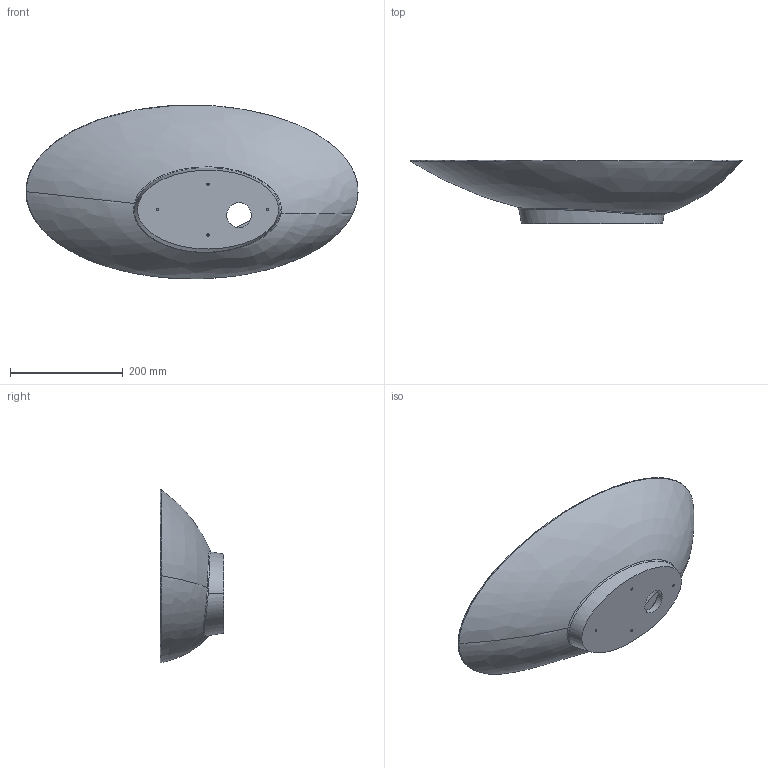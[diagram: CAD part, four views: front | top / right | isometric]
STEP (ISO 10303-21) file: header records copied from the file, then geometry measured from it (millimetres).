
FILE_DESCRIPTION(/* description */ (''),/* implementation_level */ '2;1');
FILE_NAME(/* name */ 'c:\worker\convert-fusion-r09\tmp\job-1\29\output\files\58e395e7-f1ab-4122-9e88-ba5ade78151b\203f0e8e-6407-48ec-9d8e-62d3ba9a784e.stp',/* time_stamp */ '2020-01-07T08:51:59+00:00',/* author */ (''),/* organization */ (''),/* preprocessor_version */ 'ST-DEVELOPER v18',/* originating_system */ 'Autodesk Translation Framework v8.12.0.6',/* authorisation */ '');
FILE_SCHEMA (('AUTOMOTIVE_DESIGN { 1 0 10303 214 3 1 1 }'));
Length unit declared in the file: millimetre
Products named in the file (1): Malta
Bounding box: 588.84 x 113 x 308.33 mm (x, y, z)
Volume: 2651676.1 mm3; surface area: 375597.3 mm2
Topology: 1 solids, 1 shells, 26 faces, 72 edges, 52 vertices
Faces by surface type: bspline 14, plane 6, cylinder 5, cone 1
Full cylindrical faces by diameter (mm): 4 x4, 44 x1
Entity records: 16063 total; most frequent: CARTESIAN_POINT 15433, ORIENTED_EDGE 144, DIRECTION 94, EDGE_CURVE 72, VERTEX_POINT 52, AXIS2_PLACEMENT_3D 43, B_SPLINE_CURVE_WITH_KNOTS 34, EDGE_LOOP 32
